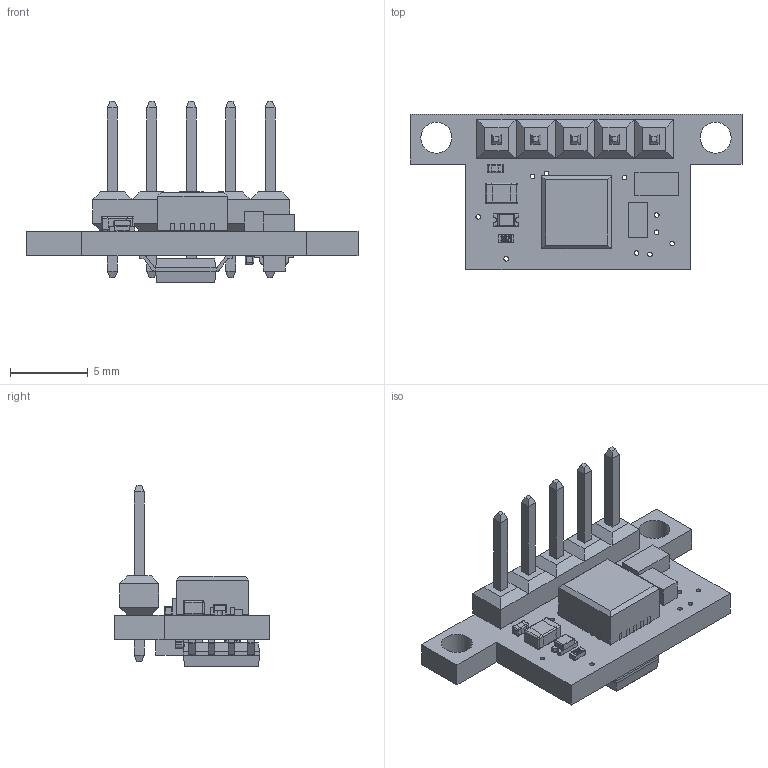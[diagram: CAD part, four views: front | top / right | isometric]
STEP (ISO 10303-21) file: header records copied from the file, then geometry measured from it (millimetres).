
FILE_DESCRIPTION(/* description */ (''),/* implementation_level */ '2;1');
FILE_NAME(/* name */ 'C:/Users/priba/Documents/Temp/Export/mrm-col.step',/* time_stamp */ '2019-09-09T12:36:37+02:00',/* author */ (''),/* organization */ (''),/* preprocessor_version */ 'ST-DEVELOPER v18',/* originating_system */ 'Autodesk Translation Framework v8.6.0.1094',/* authorisation */ '');
FILE_SCHEMA (('AUTOMOTIVE_DESIGN { 1 0 10303 214 3 1 1 }'));
Length unit declared in the file: millimetre
Products named in the file (16): mrm-col; PCB Component; Board; VISIBLE; 4MB Flash; Body; PinsArrayLR; CHIPLED_0603; BROADCOM_ASMT-TWBM-NV702; 10 kOhm; 1X05; JUMPER-SMT_3_NO_NO-SILK; 100 nF; 10 uF; SOT-23; FIDUCIAL1X2
Assembly tree (21 placements, depth 4):
  mrm-col
    PCB Component
      Board
      VISIBLE
      4MB Flash
        Body
        PinsArrayLR
      CHIPLED_0603
      BROADCOM_ASMT-TWBM-NV702
      10 kOhm
      1X05
      JUMPER-SMT_3_NO_NO-SILK
      100 nF  x2
      10 uF
      SOT-23
      FIDUCIAL1X2  x6
Bounding box: 21.4 x 10 x 11.7 mm (x, y, z)
Volume: 431 mm3; surface area: 961.5 mm2
Topology: 33 solids, 33 shells, 868 faces, 2214 edges, 1408 vertices
Faces by surface type: plane 632, cylinder 188, sphere 40, bspline 4, torus 4
Full cylindrical faces by diameter (mm): 0.3 x12, 0.487 x1, 1.016 x5, 2 x2
Entity records: 26252 total; most frequent: CARTESIAN_POINT 5106, ORIENTED_EDGE 4164, DIRECTION 4004, EDGE_CURVE 2082, LINE 1576, VECTOR 1576, VERTEX_POINT 1352, AXIS2_PLACEMENT_3D 1214
